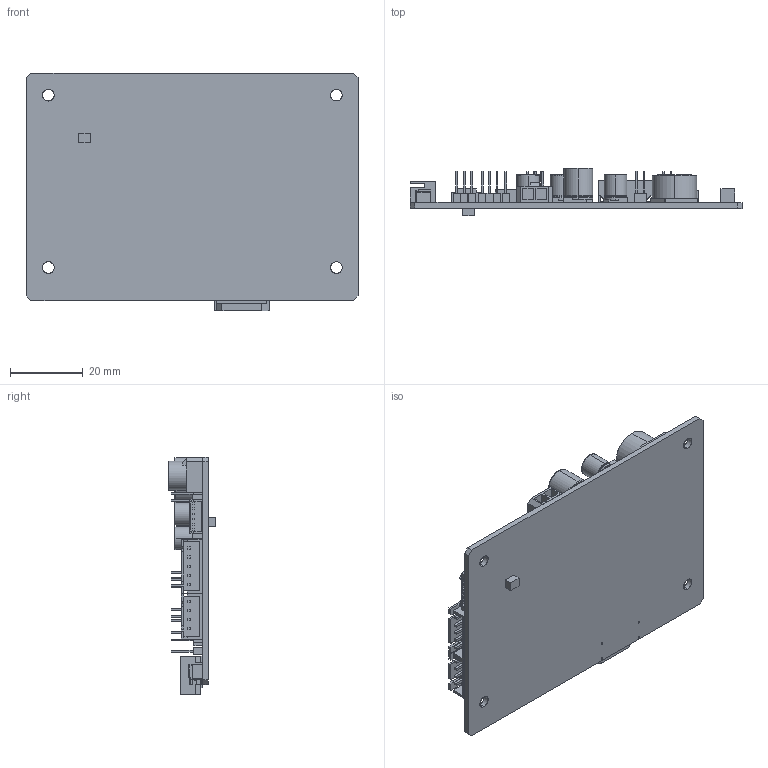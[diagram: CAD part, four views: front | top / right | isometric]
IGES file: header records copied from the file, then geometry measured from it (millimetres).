
Start section: SolidWorks IGES file using analytic representation for surfaces
Global section: file name: C:\Documents and Settings\wingchuntse\Desktop\DD-1920-HDMI\DD-1920-HDMI.IGS; native system: SolidWorks 2011; preprocessor: SolidWorks 2011; author: wingchuntse; date: 130906.174455; units: millimetre
Bounding box: 91.5 x 13.18 x 65.55 mm (x, y, z)
Surface area: 19952.5 mm2 (no closed solid volume)
Topology: 0 solids, 0 shells, 955 faces, 5494 edges, 5494 vertices
Faces by surface type: bspline 899, revolution 56
